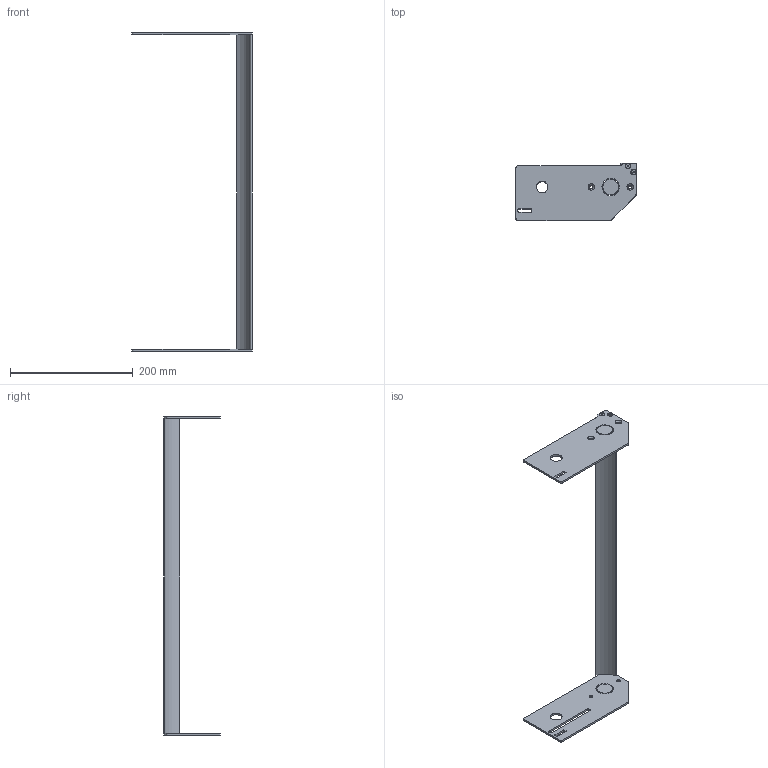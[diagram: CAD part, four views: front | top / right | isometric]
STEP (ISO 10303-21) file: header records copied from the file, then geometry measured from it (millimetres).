
FILE_DESCRIPTION((''),'2;1');
FILE_NAME('27M3300-20_ASM','2018-12-13T',('james.horst'),(''),'PRO/ENGINEER BY PARAMETRIC TECHNOLOGY CORPORATION, 2012420','PRO/ENGINEER BY PARAMETRIC TECHNOLOGY CORPORATION, 2012420','');
FILE_SCHEMA(('CONFIG_CONTROL_DESIGN'));
Length unit declared in the file: inch
Products named in the file (5): 350537_1_1; 350539-20; 930410M_1; 350538_1_1; 27M3300-20_ASM
Assembly tree (7 placements, depth 2):
  27M3300-20_ASM
    350537_1_1
    350539-20
    930410M_1  x4
    350538_1_1
Bounding box: 196.06 x 92.74 x 520.34 mm (x, y, z)
Volume: 244656.9 mm3; surface area: 127320.8 mm2
Topology: 7 solids, 11 shells, 199 faces, 529 edges, 348 vertices
Faces by surface type: cylinder 87, plane 80, cone 32
Entity records: 5113 total; most frequent: DIRECTION 923, CARTESIAN_POINT 885, ORIENTED_EDGE 814, EDGE_CURVE 415, AXIS2_PLACEMENT_3D 352, VERTEX_POINT 276, VECTOR 219, LINE 219
